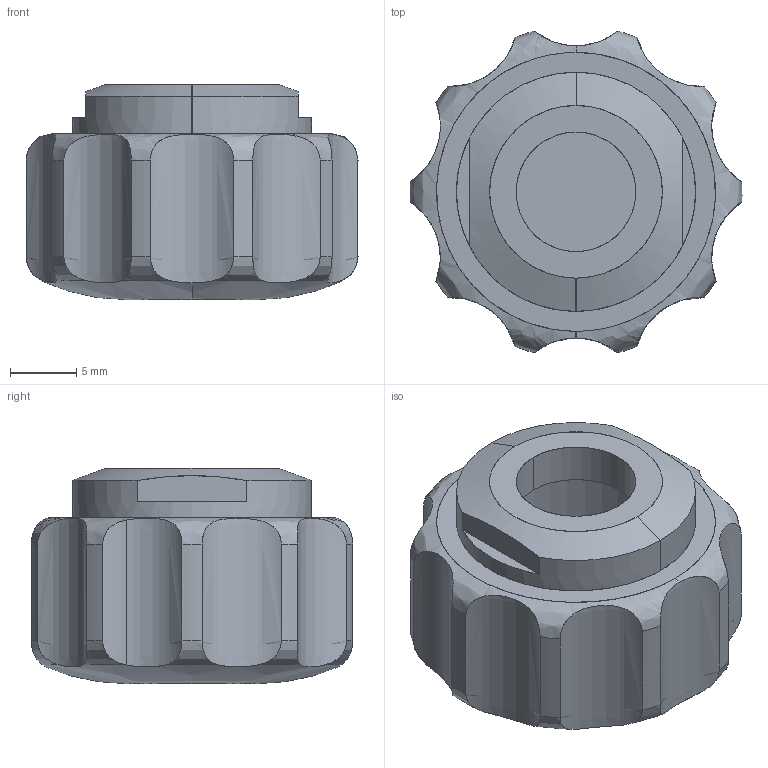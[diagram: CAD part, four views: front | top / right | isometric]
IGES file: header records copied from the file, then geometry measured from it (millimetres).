
Start section: SolidWorks IGES file using analytic representation for surfaces
Global section: file name: C:\Users\ThinkStation\Desktop\Dummys Easyknob\Easyknob Dummy M8.igs; native system: SolidWorks 2015; preprocessor: SolidWorks 2015; author: ThinkStation; date: 150122.103952; units: millimetre
Bounding box: 24.99 x 24.2 x 16.2 mm (x, y, z)
Surface area: 2729 mm2 (no closed solid volume)
Topology: 0 solids, 0 shells, 52 faces, 984 edges, 984 vertices
Faces by surface type: revolution 29, bspline 23
